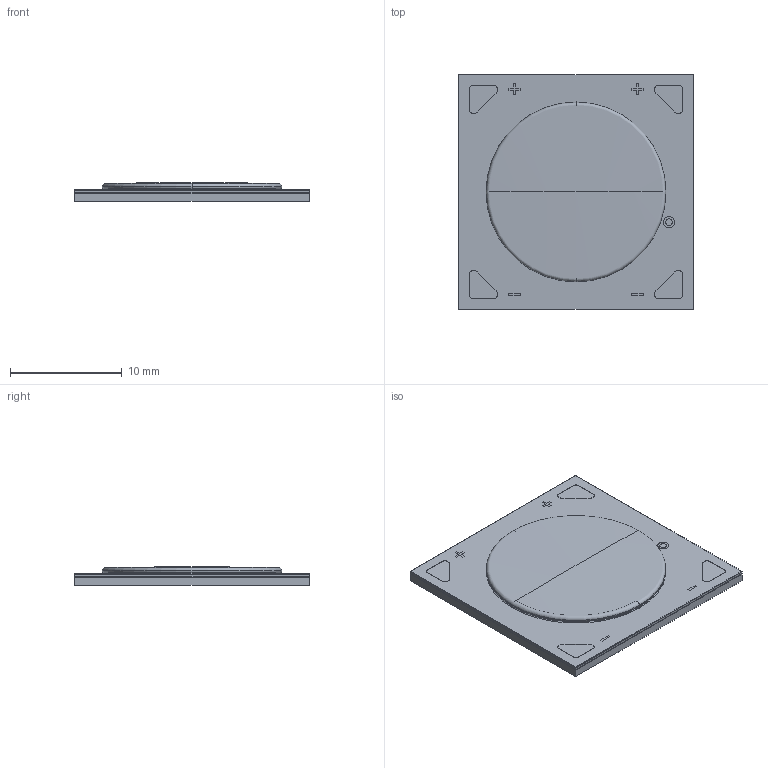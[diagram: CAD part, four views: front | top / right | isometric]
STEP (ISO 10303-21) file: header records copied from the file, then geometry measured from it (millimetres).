
FILE_DESCRIPTION (( 'STEP AP214' ), '1' );
FILE_NAME ('V15.STEP', '2014-02-06T02:21:21', ( '' ), ( '' ), 'SwSTEP 2.0', 'SolidWorks 2013', '' );
FILE_SCHEMA (( 'AUTOMOTIVE_DESIGN' ));
Length unit declared in the file: millimetre
Products named in the file (7): V15_Ph; V15_Rd; V15_Sm; V15_D_Round_Center; V15_DAH_Round_Center; V15_base_Round_Center; V15
Assembly tree (6 placements, depth 2):
  V15
    V15_base_Round_Center
    V15_DAH_Round_Center
    V15_D_Round_Center
    V15_Sm
    V15_Rd
    V15_Ph
Bounding box: 21 x 21 x 1.7 mm (x, y, z)
Volume: 568.7 mm3; surface area: 3075.6 mm2
Topology: 6 solids, 6 shells, 208 faces, 557 edges, 367 vertices
Faces by surface type: cylinder 99, plane 89, torus 18, sphere 2
Entity records: 7449 total; most frequent: DIRECTION 1233, CARTESIAN_POINT 1141, ORIENTED_EDGE 1114, EDGE_CURVE 557, AXIS2_PLACEMENT_3D 459, VERTEX_POINT 367, VECTOR 315, LINE 315
